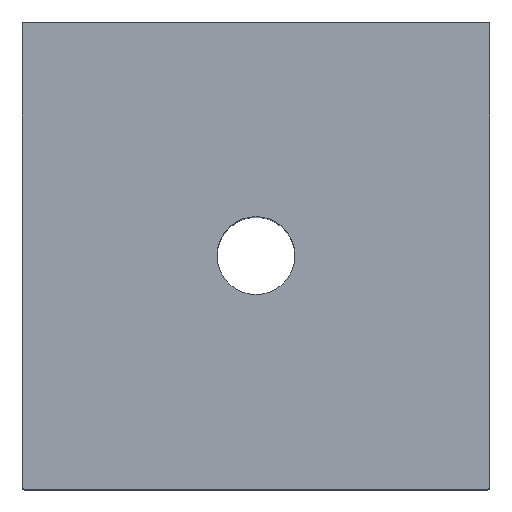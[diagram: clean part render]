
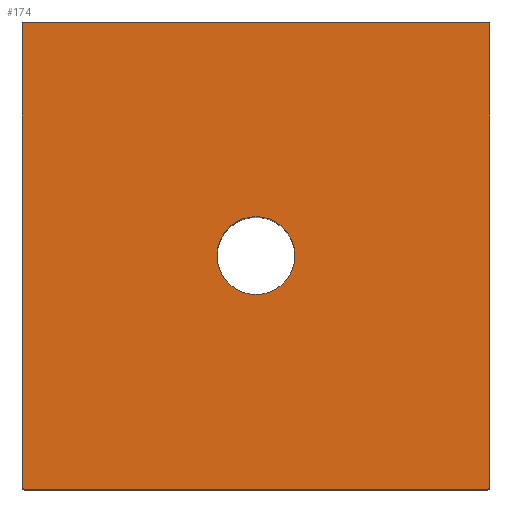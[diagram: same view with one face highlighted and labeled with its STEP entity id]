
A CAD part, top view. The second image highlights one B-rep face of the part: STEP entity #174.
In plain terms, the highlighted planar face has unit normal (0, 0, 1).
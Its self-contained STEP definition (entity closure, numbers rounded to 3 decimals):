
#174=ADVANCED_FACE('',(#213,#214),#202,.T.);
#202=PLANE('',#625);
#213=FACE_BOUND('',#217,.T.);
#214=FACE_BOUND('',#218,.T.);
#217=EDGE_LOOP('',(#323,#324,#325,#326,#327,#328,#329,#330));
#218=EDGE_LOOP('',(#331,#332));
#249=LINE('',#781,#283);
#250=LINE('',#785,#284);
#251=LINE('',#789,#285);
#252=LINE('',#793,#286);
#283=VECTOR('',#670,1.);
#284=VECTOR('',#673,1.);
#285=VECTOR('',#676,1.);
#286=VECTOR('',#679,1.);
#323=ORIENTED_EDGE('',*,*,#531,.T.);
#324=ORIENTED_EDGE('',*,*,#532,.T.);
#325=ORIENTED_EDGE('',*,*,#533,.T.);
#326=ORIENTED_EDGE('',*,*,#534,.T.);
#327=ORIENTED_EDGE('',*,*,#535,.T.);
#328=ORIENTED_EDGE('',*,*,#536,.T.);
#329=ORIENTED_EDGE('',*,*,#537,.T.);
#330=ORIENTED_EDGE('',*,*,#538,.T.);
#331=ORIENTED_EDGE('',*,*,#539,.T.);
#332=ORIENTED_EDGE('',*,*,#540,.T.);
#479=VERTEX_POINT('',#779);
#480=VERTEX_POINT('',#780);
#481=VERTEX_POINT('',#782);
#482=VERTEX_POINT('',#784);
#483=VERTEX_POINT('',#786);
#484=VERTEX_POINT('',#788);
#485=VERTEX_POINT('',#790);
#486=VERTEX_POINT('',#792);
#487=VERTEX_POINT('',#795);
#488=VERTEX_POINT('',#796);
#531=EDGE_CURVE('',#479,#480,#605,.T.);
#532=EDGE_CURVE('',#480,#481,#249,.T.);
#533=EDGE_CURVE('',#481,#482,#606,.T.);
#534=EDGE_CURVE('',#482,#483,#250,.T.);
#535=EDGE_CURVE('',#483,#484,#607,.T.);
#536=EDGE_CURVE('',#484,#485,#251,.T.);
#537=EDGE_CURVE('',#485,#486,#608,.T.);
#538=EDGE_CURVE('',#486,#479,#252,.T.);
#539=EDGE_CURVE('',#487,#488,#609,.T.);
#540=EDGE_CURVE('',#488,#487,#610,.T.);
#605=CIRCLE('',#619,0.5);
#606=CIRCLE('',#620,0.5);
#607=CIRCLE('',#621,0.5);
#608=CIRCLE('',#622,0.5);
#609=CIRCLE('',#623,10.);
#610=CIRCLE('',#624,10.);
#619=AXIS2_PLACEMENT_3D('',#778,#668,#669);
#620=AXIS2_PLACEMENT_3D('',#783,#671,#672);
#621=AXIS2_PLACEMENT_3D('',#787,#674,#675);
#622=AXIS2_PLACEMENT_3D('',#791,#677,#678);
#623=AXIS2_PLACEMENT_3D('',#794,#680,#681);
#624=AXIS2_PLACEMENT_3D('',#797,#682,#683);
#625=AXIS2_PLACEMENT_3D('',#798,#684,#685);
#668=DIRECTION('',(0.,0.,1.));
#669=DIRECTION('',(-0.707,0.707,0.));
#670=DIRECTION('',(0.,1.,0.));
#671=DIRECTION('',(0.,0.,1.));
#672=DIRECTION('',(-0.707,-0.707,0.));
#673=DIRECTION('',(-1.,0.,0.));
#674=DIRECTION('',(0.,0.,1.));
#675=DIRECTION('',(0.707,-0.707,0.));
#676=DIRECTION('',(0.,-1.,0.));
#677=DIRECTION('',(0.,0.,1.));
#678=DIRECTION('',(0.707,0.707,0.));
#679=DIRECTION('',(1.,0.,0.));
#680=DIRECTION('',(0.,0.,-1.));
#681=DIRECTION('',(-1.,0.,0.));
#682=DIRECTION('',(0.,0.,-1.));
#683=DIRECTION('',(1.,0.,0.));
#684=DIRECTION('',(0.,0.,1.));
#685=DIRECTION('',(-1.,0.,0.));
#778=CARTESIAN_POINT('',(59.5,-59.5,123.));
#779=CARTESIAN_POINT('',(59.5,-60.,123.));
#780=CARTESIAN_POINT('',(60.,-59.5,123.));
#781=CARTESIAN_POINT('',(60.,-59.5,123.));
#782=CARTESIAN_POINT('',(60.,59.5,123.));
#783=CARTESIAN_POINT('',(59.5,59.5,123.));
#784=CARTESIAN_POINT('',(59.5,60.,123.));
#785=CARTESIAN_POINT('',(-59.5,60.,123.));
#786=CARTESIAN_POINT('',(-59.5,60.,123.));
#787=CARTESIAN_POINT('',(-59.5,59.5,123.));
#788=CARTESIAN_POINT('',(-60.,59.5,123.));
#789=CARTESIAN_POINT('',(-60.,-59.5,123.));
#790=CARTESIAN_POINT('',(-60.,-59.5,123.));
#791=CARTESIAN_POINT('',(-59.5,-59.5,123.));
#792=CARTESIAN_POINT('',(-59.5,-60.,123.));
#793=CARTESIAN_POINT('',(-59.5,-60.,123.));
#794=CARTESIAN_POINT('',(0.,0.,123.));
#795=CARTESIAN_POINT('',(0.,10.,123.));
#796=CARTESIAN_POINT('',(0.,-10.,123.));
#797=CARTESIAN_POINT('',(0.,0.,123.));
#798=CARTESIAN_POINT('',(59.5,-60.,123.));
